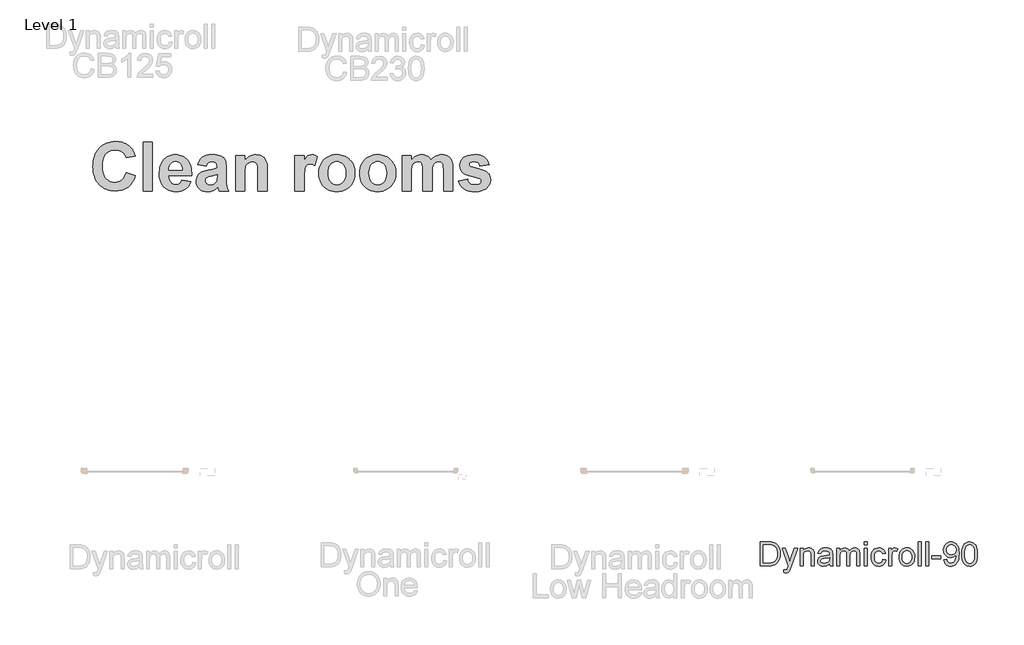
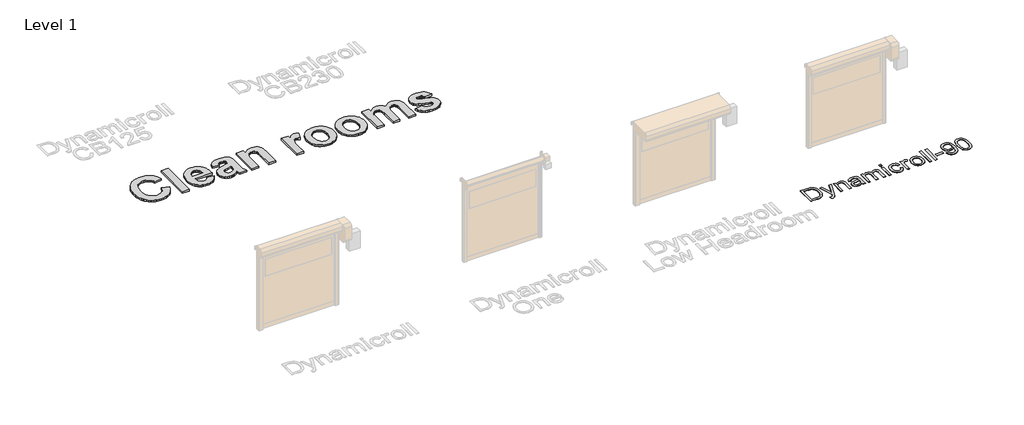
# One storey, part 15 of 18: 2 proxies.
"""IFC4 building model written with IfcOpenShell, lengths in millimetres."""

from ifc_helpers import new_model, si_unit, origin, origin_with_axes, place, context, project, spatial, polyline, outline, extrude, element, save

model = new_model("IFC4")

# Units and contexts
model_context = context("Model", 3, world=origin())
ifc_project = project(units=[si_unit("LENGTHUNIT", "METRE", prefix="MILLI")], contexts=[model_context])

# Site, building, storey
site = spatial("IfcSite", under=ifc_project)
building = spatial("IfcBuilding", under=site)
storey = spatial("IfcBuildingStorey", under=building, Name="Level 1", Elevation=0.0)

# Proxies
placement = place(None, origin())
element("IfcBuildingElementProxy", 1, Name="1000", ObjectType="1000", at=placement, inside=storey, context=model_context, shape_type="SweptSolid", body=[
    extrude(outline(polyline([(1304.7408851, 50927.9098645), (1499.0760089, 50863.1314899), (1472.2378981, 50786.2941528), (1437.7769415, 50720.0054425), (1395.6931391, 50664.2653592), (1371.7926706, 50640.3510527), (1345.9864908, 50619.0739028), (1288.8625921, 50584.1464027), (1224.5270384, 50559.1981884), (1152.9798297, 50544.2292598), (1074.2209661, 50539.2396169), (1024.4312889, 50541.3706926), (976.9110689, 50547.7639196), (931.6603061, 50558.419298), (888.6790006, 50573.3368278), (847.9671522, 50592.5165089), (809.5247611, 50615.9583413), (773.3518272, 50643.6623252), (739.4483505, 50675.6284603), (708.7276491, 50711.2913594), (682.1030413, 50750.085635), (659.574527, 50792.0112872), (641.1421062, 50837.0683158), (626.8057789, 50885.2567209), (616.5655451, 50936.5765025), (610.4214049, 50991.0276607), (608.3733581, 51048.6101953), (610.4391968, 51109.4269042), (616.6367128, 51166.7484908), (626.9659061, 51220.5749552), (641.4267768, 51270.9062972), (660.0193248, 51317.7425171), (682.7435501, 51361.0836146), (709.5994528, 51400.9295899), (740.5870328, 51437.2804429), (774.9432148, 51469.7210291), (811.9049235, 51497.8362038), (851.4721589, 51521.6259669), (893.6449209, 51541.0903186), (938.4232095, 51556.2292588), (985.8070249, 51567.0427876), (1035.7963669, 51573.5309048), (1088.3912355, 51575.6936105), (1134.349721, 51573.9104656), (1178.0941019, 51568.5610307), (1219.6243782, 51559.6453059), (1258.9405499, 51547.1632913), (1296.042617, 51531.1149867), (1330.9305795, 51511.5003922), (1363.6044374, 51488.3195077), (1394.0641907, 51461.5723334), (1426.9120139, 51424.2330408), (1455.363258, 51379.5239429), (1479.417923, 51327.4450397), (1499.0760089, 51267.9963312), (1304.7408851, 51235.6071439), (1292.4921421, 51271.1988753), (1274.9769932, 51302.8210336), (1252.1954384, 51330.4736185), (1224.1474776, 51354.1566302), (1191.8136429, 51373.1425772), (1156.1744664, 51386.7039678), (1117.2299479, 51394.8408023), (1074.9800877, 51397.5530804), (1017.2314952, 51392.6266977), (965.1921295, 51377.8475494), (918.8619908, 51353.2156358), (878.2410789, 51318.7309566), (860.5381265, 51297.5012519), (845.1955677, 51273.2231996), (832.2134026, 51245.8967996), (821.5916312, 51215.5220522), (807.4292692, 51145.6275144), (802.7084819, 51063.5395864), (807.2869339, 50976.6517958), (821.02229, 50903.2384133), (831.323807, 50871.584625), (843.91455, 50843.2994387), (858.7945191, 50818.3828545), (875.9637141, 50796.8348722), (915.3510535, 50762.07343), (960.2578393, 50737.2438284), (1010.6840716, 50722.3460674), (1066.6297503, 50717.3801471), (1108.2786393, 50720.5510612), (1146.9384872, 50730.0638034), (1182.6092938, 50745.9183739), (1215.2910592, 50768.1147725), (1244.2721069, 50797.1274503), (1268.8407605, 50833.4308582), (1288.9970199, 50877.0249963), (1304.7408851, 50927.9098645)])), origin_with_axes(), (0.0, 0.0, 1.0), 50.0),
    extrude(outline(polyline([(1661.0219454, 50539.2396169), (1661.0219454, 51559.4990169), (1855.3570692, 51559.4990169), (1855.3570692, 50539.2396169), (1661.0219454, 50539.2396169)])), origin_with_axes(), (0.0, 0.0, 1.0), 50.0),
    extrude(outline(polyline([(2470.7516279, 50765.963928), (2665.0867517, 50733.5747407), (2644.084388, 50685.1570176), (2617.7681734, 50642.8913423), (2586.1381076, 50606.7777148), (2549.1941909, 50576.816135), (2507.1103884, 50553.2912736), (2460.0606657, 50536.4878012), (2408.0450226, 50526.4057178), (2351.0634592, 50523.0450233), (2305.5280258, 50525.0258562), (2263.0528013, 50530.9683548), (2223.6377857, 50540.8725191), (2187.2829789, 50554.7383491), (2153.9883809, 50572.5658449), (2123.7539919, 50594.3550065), (2096.5798117, 50620.1058337), (2072.4658403, 50649.8183267), (2041.2469654, 50703.8899241), (2018.9477691, 50764.6354653), (2005.5682513, 50832.0549504), (2001.108412, 50906.1483793), (2007.0232343, 50993.5106208), (2014.4167622, 51033.4435788), (2024.7677012, 51070.8777616), (2038.0760513, 51105.8131692), (2054.3418126, 51138.2498016), (2073.5649851, 51168.1876588), (2095.7455687, 51195.6267408), (2120.187702, 51220.1795793), (2146.1955235, 51241.4587061), (2173.7690333, 51259.464121), (2202.9082313, 51274.1958241), (2233.6131176, 51285.6538154), (2265.8836922, 51293.8380949), (2299.719955, 51298.7486626), (2335.1219061, 51300.3855185), (2374.663442, 51298.7051713), (2412.0620409, 51293.6641295), (2447.3177029, 51285.2623933), (2480.430428, 51273.4999626), (2511.4002161, 51258.3768375), (2540.2270672, 51239.8930178), (2566.9109814, 51218.0485037), (2591.4519587, 51192.843295), (2613.391363, 51164.1666867), (2632.2705585, 51131.9079734), (2648.0895451, 51096.0671552), (2660.8483229, 51056.644232), (2670.5468918, 51013.6392039), (2677.1852518, 50967.0520709), (2680.763403, 50916.8828329), (2681.2813453, 50863.1314899), (2195.4435358, 50863.1314899), (2199.0651784, 50819.6401496), (2207.9057817, 50781.2728798), (2221.9653459, 50748.0296808), (2241.243871, 50719.9105523), (2264.4761543, 50697.5480959), (2290.3969931, 50681.5749127), (2319.0063876, 50671.9910028), (2350.3043376, 50668.7963661), (2391.1071224, 50674.5530381), (2408.8990344, 50681.7488781), (2424.9512927, 50691.823054), (2439.2006373, 50705.0918666), (2451.5838081, 50721.8716164), (2470.7516279, 50765.963928)]), holes=[polyline([(2486.9462215, 50976.4936455), (2483.4827293, 51017.5257482), (2475.1165769, 51053.3230751), (2461.8477644, 51083.8856261), (2443.6762916, 51109.2134013), (2421.9464365, 51129.0849901), (2398.0024767, 51143.278982), (2371.8444124, 51151.7953772), (2343.4722434, 51154.6341756), (2313.3287908, 51151.6451344), (2285.9055238, 51142.6780108), (2261.2024425, 51127.7328047), (2239.2195468, 51106.8095163), (2221.3169296, 51080.6356369), (2208.6016432, 51050.1916986), (2201.0736875, 51015.4777015), (2198.7330627, 50976.4936455), (2486.9462215, 50976.4936455)])]), origin_with_axes(), (0.0, 0.0, 1.0), 50.0),
    extrude(outline(polyline([(2988.9786247, 51057.4666137), (2810.8380945, 51089.855801), (2827.5783068, 51140.0210853), (2849.4584048, 51183.2277551), (2876.4783884, 51219.4758104), (2908.6382577, 51248.7652512), (2947.5669611, 51271.3491182), (2994.893447, 51287.4804517), (3050.6177153, 51297.1592518), (3114.739766, 51300.3855185), (3172.8916418, 51298.4323619), (3223.1043712, 51292.5728923), (3265.377954, 51282.8071095), (3299.7123903, 51269.1350136), (3327.8315188, 51252.4659689), (3351.4591779, 51233.7093399), (3370.5953676, 51212.8651266), (3385.2400881, 51189.933329), (3396.0892006, 51160.9364662), (3403.8385667, 51121.8970576), (3408.4881864, 51072.8151031), (3410.0380596, 51013.6906028), (3410.0380596, 50783.9298054), (3412.6000949, 50698.6551482), (3420.2862009, 50639.1906246), (3434.9941814, 50590.9231443), (3458.6218405, 50539.2396169), (3264.2867167, 50539.2396169), (3246.0677989, 50600.9815052), (3239.2357047, 50625.5264362), (3188.9439002, 50580.7698932), (3135.2360486, 50548.7286367), (3107.0694751, 50537.4920558), (3077.9856296, 50529.4659266), (3047.9845123, 50524.6502491), (3017.066123, 50523.0450233), (2964.5839365, 50526.9434289), (2917.9691271, 50538.6386457), (2877.221695, 50558.1306737), (2842.34164, 50585.4195129), (2814.3885694, 50618.6548045), (2794.4220904, 50655.9861895), (2782.442203, 50697.4136681), (2778.4489072, 50742.9372402), (2780.2280984, 50773.5867739), (2785.565672, 50802.528284), (2794.461628, 50829.7617706), (2806.9159664, 50855.2872336), (2822.5807564, 50878.5195169), (2841.1080674, 50898.8734642), (2862.4978994, 50916.3490755), (2886.7502523, 50930.9463508), (2949.4410425, 50955.554542), (3034.7789598, 50976.746686), (3145.2944095, 51001.7344379), (3215.7029358, 51025.0774264), (3215.7029358, 51045.573709), (3214.1926001, 51072.9337159), (3209.6615932, 51096.0552939), (3202.109915, 51114.9384432), (3191.5375656, 51129.5831636), (3176.7900474, 51140.5429814), (3156.7128632, 51148.3714226), (3131.3060129, 51153.0684874), (3100.5694966, 51154.6341756), (3060.2727928, 51149.2570645), (3043.8726037, 51142.5356755), (3029.9711899, 51133.1257309), (3017.9201348, 51120.3313694), (3007.0710223, 51103.4567293), (2988.9786247, 51057.4666137)]), holes=[polyline([(3215.7029358, 50879.3260836), (3106.1363881, 50852.3772676), (3044.1414593, 50836.9101655), (3007.9566641, 50821.6328437), (2992.5686371, 50808.6487017), (2981.5771893, 50793.9881663), (2974.9823206, 50777.6512373), (2972.784031, 50759.6379149), (2974.5474072, 50741.7906503), (2979.8375357, 50725.1927733), (2988.6544165, 50709.8442839), (3000.9980497, 50695.7451821), (3016.0618685, 50683.9550751), (3033.0393062, 50675.5335701), (3051.930363, 50670.4806671), (3072.7350387, 50668.7963661), (3096.8529638, 50670.7574302), (3120.3699177, 50676.6406224), (3143.2859003, 50686.4459428), (3165.6009117, 50700.1733913), (3192.8027682, 50726.6161263), (3208.6178011, 50758.3727123), (3213.9316521, 50791.0782002), (3215.7029358, 50844.1534505), (3215.7029358, 50879.3260836)])]), origin_with_axes(), (0.0, 0.0, 1.0), 50.0),
    extrude(outline(polyline([(4268.351523, 50539.2396169), (4074.0163992, 50539.2396169), (4074.0163992, 50922.0899324), (4070.9799129, 51022.2939807), (4067.184305, 51056.2646712), (4061.870454, 51079.4811395), (4045.8656407, 51111.1744653), (4022.1430915, 51134.8970146), (3991.8414885, 51149.6998854), (3956.0995142, 51154.6341756), (3931.9420515, 51152.8707995), (3909.0656065, 51147.580671), (3887.4701791, 51138.7637902), (3867.1557694, 51126.420157), (3849.0317418, 51111.1586503), (3834.0074605, 51093.5881488), (3822.0829258, 51073.7086525), (3813.2581374, 51051.5201614), (3806.8925867, 51023.2349751), (3802.3457647, 50985.0653933), (3798.7083072, 50879.0730431), (3798.7083072, 50539.2396169), (3604.3731834, 50539.2396169), (3604.3731834, 51284.1909248), (3798.7083072, 51284.1909248), (3798.7083072, 51176.9017419), (3822.5455155, 51205.843252), (3847.8772444, 51230.9258942), (3874.7034938, 51252.1496683), (3903.0242639, 51269.5145743), (3932.8395546, 51283.0206124), (3964.149366, 51292.6677825), (3996.9536979, 51298.4560845), (4031.2525504, 51300.3855185), (4090.3375132, 51294.5023263), (4117.8873004, 51287.148336), (4144.1086249, 51276.8527496), (4189.0233182, 51250.093714), (4206.8310452, 51234.2944962), (4221.5390258, 51216.882145), (4243.8382221, 51178.0087942), (4258.1033817, 51134.2644133), (4265.7894877, 51078.0577865), (4268.351523, 51001.7976981), (4268.351523, 50539.2396169)])), origin_with_axes(), (0.0, 0.0, 1.0), 50.0),
    extrude(outline(polyline([(5045.6920182, 50539.2396169), (4851.3568944, 50539.2396169), (4851.3568944, 51284.1909248), (5045.6920182, 51284.1909248), (5045.6920182, 51180.4443093), (5086.7478436, 51241.4587061), (5105.6151778, 51262.5006073), (5123.3754597, 51277.2323104), (5160.1928562, 51294.5972165), (5201.8180227, 51300.3855185), (5232.4201112, 51297.8234832), (5262.4844887, 51290.1373772), (5292.0111551, 51277.3272006), (5321.0001103, 51259.3929533), (5264.3190325, 51074.420329), (5217.5065353, 51098.1428783), (5195.4287494, 51104.0735156), (5174.2366053, 51106.0503947), (5136.8814977, 51100.5151332), (5120.5524763, 51093.5960563), (5105.7891431, 51083.9093487), (5092.5519606, 51070.6168136), (5080.8013912, 51052.8802542), (5061.7600916, 51004.0750628), (5054.7303095, 50967.3209264), (5049.7090366, 50914.7517572), (5045.6920182, 50762.1683202), (5045.6920182, 50539.2396169)])), origin_with_axes(), (0.0, 0.0, 1.0), 50.0),
    extrude(outline(polyline([(5353.3892976, 50922.342973), (5356.3862463, 50970.9188464), (5365.3770925, 51018.7197832), (5380.3618361, 51065.7457834), (5401.3404772, 51111.996847), (5427.8069347, 51155.1481642), (5459.2551276, 51192.8749251), (5495.6850558, 51225.1771297), (5537.0967193, 51252.0547781), (5582.2802682, 51273.199477), (5630.0258524, 51288.3028334), (5680.3334719, 51297.3648472), (5733.2031268, 51300.3855185), (5774.1344087, 51298.6735412), (5813.1718405, 51293.5376093), (5850.315422, 51284.9777227), (5885.5651534, 51272.9938816), (5918.9210346, 51257.5860858), (5950.3830656, 51238.7543354), (5979.9512464, 51216.4986304), (6007.625577, 51190.8189708), (6032.6825197, 51162.5219233), (6054.3985367, 51132.4140545), (6072.773628, 51100.4953644), (6087.8077936, 51066.7658531), (6099.5010335, 51031.2255205), (6107.8533478, 50993.8743666), (6112.8647363, 50954.7123915), (6114.5351992, 50913.7395951), (6112.8469444, 50872.4485212), (6107.7821801, 50832.9643148), (6099.3409063, 50795.2869758), (6087.523123, 50759.4165044), (6072.3288302, 50725.3529005), (6053.7580279, 50693.0961641), (6031.810716, 50662.6462952), (6006.4868946, 50634.0032938), (5978.6049917, 50607.9974492), (5948.9834352, 50585.4590505), (5917.622225, 50566.3880977), (5884.5213612, 50550.7845909), (5849.6808438, 50538.6485301), (5813.1006728, 50529.9799152), (5774.7808482, 50524.7787463), (5734.72137, 50523.0450233), (5684.5798083, 50525.9312668), (5635.624374, 50534.5899973), (5587.8550673, 50549.0212148), (5541.271888, 50569.2249192), (5498.0335881, 50595.0113303), (5460.2989197, 50626.1906676), (5428.0678828, 50662.7629311), (5401.3404772, 50704.7281208), (5380.3618361, 50751.8252887), (5365.3770925, 50803.7934866), (5356.3862463, 50860.6327147), (5353.3892976, 50922.342973)]), holes=[polyline([(5547.7244214, 50911.7152709), (5551.0851159, 50856.3231183), (5561.1671993, 50807.810505), (5577.9706717, 50766.177431), (5601.4955331, 50731.4238963), (5629.9546848, 50704.0243518), (5661.5610279, 50684.4532487), (5696.3145626, 50672.7105868), (5734.2152889, 50668.7963661), (5772.1002001, 50672.7105868), (5806.8062897, 50684.4532487), (5838.3335577, 50704.0243518), (5866.6820041, 50731.4238963), (5890.0961603, 50766.2723212), (5906.8205576, 50808.1900658), (5916.8551959, 50857.1771301), (5920.2000754, 50913.233514), (5916.8551959, 50967.9614353), (5906.8205576, 51015.9995976), (5890.0961603, 51057.348001), (5866.6820041, 51092.0066455), (5838.3335577, 51119.4061899), (5806.8062897, 51138.9772931), (5772.1002001, 51150.719955), (5734.2152889, 51154.6341756), (5696.3145626, 51150.719955), (5661.5610279, 51138.9772931), (5629.9546848, 51119.4061899), (5601.4955331, 51092.0066455), (5577.9706717, 51057.2531108), (5561.1671993, 51015.6200368), (5551.0851159, 50967.1074235), (5547.7244214, 50911.7152709)])]), origin_with_axes(), (0.0, 0.0, 1.0), 50.0),
    extrude(outline(polyline([(6211.7027611, 50922.342973), (6214.6997098, 50970.9188464), (6223.690556, 51018.7197832), (6238.6752996, 51065.7457834), (6259.6539407, 51111.996847), (6286.1203982, 51155.1481642), (6317.568591, 51192.8749251), (6353.9985192, 51225.1771297), (6395.4101828, 51252.0547781), (6440.5937317, 51273.199477), (6488.3393159, 51288.3028334), (6538.6469354, 51297.3648472), (6591.5165903, 51300.3855185), (6632.4478722, 51298.6735412), (6671.4853039, 51293.5376093), (6708.6288855, 51284.9777227), (6743.8786168, 51272.9938816), (6777.234498, 51257.5860858), (6808.696529, 51238.7543354), (6838.2647098, 51216.4986304), (6865.9390405, 51190.8189708), (6890.9959832, 51162.5219233), (6912.7120002, 51132.4140545), (6931.0870915, 51100.4953644), (6946.1212571, 51066.7658531), (6957.814497, 51031.2255205), (6966.1668112, 50993.8743666), (6971.1781998, 50954.7123915), (6972.8486626, 50913.7395951), (6971.1604079, 50872.4485212), (6966.0956436, 50832.9643148), (6957.6543698, 50795.2869758), (6945.8365865, 50759.4165044), (6930.6422937, 50725.3529005), (6912.0714913, 50693.0961641), (6890.1241795, 50662.6462952), (6864.8003581, 50634.0032938), (6836.9184552, 50607.9974492), (6807.2968986, 50585.4590505), (6775.9356885, 50566.3880977), (6742.8348247, 50550.7845909), (6707.9943073, 50538.6485301), (6671.4141363, 50529.9799152), (6633.0943116, 50524.7787463), (6593.0348334, 50523.0450233), (6542.8932717, 50525.9312668), (6493.9378375, 50534.5899973), (6446.1685307, 50549.0212148), (6399.5853514, 50569.2249192), (6356.3470516, 50595.0113303), (6318.6123832, 50626.1906676), (6286.3813462, 50662.7629311), (6259.6539407, 50704.7281208), (6238.6752996, 50751.8252887), (6223.690556, 50803.7934866), (6214.6997098, 50860.6327147), (6211.7027611, 50922.342973)]), holes=[polyline([(6406.0378849, 50911.7152709), (6409.3985793, 50856.3231183), (6419.4806628, 50807.810505), (6436.2841352, 50766.177431), (6459.8089966, 50731.4238963), (6488.2681482, 50704.0243518), (6519.8744914, 50684.4532487), (6554.6280261, 50672.7105868), (6592.5287524, 50668.7963661), (6630.4136636, 50672.7105868), (6665.1197532, 50684.4532487), (6696.6470212, 50704.0243518), (6724.9954676, 50731.4238963), (6748.4096238, 50766.2723212), (6765.134021, 50808.1900658), (6775.1686594, 50857.1771301), (6778.5135388, 50913.233514), (6775.1686594, 50967.9614353), (6765.134021, 51015.9995976), (6748.4096238, 51057.348001), (6724.9954676, 51092.0066455), (6696.6470212, 51119.4061899), (6665.1197532, 51138.9772931), (6630.4136636, 51150.719955), (6592.5287524, 51154.6341756), (6554.6280261, 51150.719955), (6519.8744914, 51138.9772931), (6488.2681482, 51119.4061899), (6459.8089966, 51092.0066455), (6436.2841352, 51057.2531108), (6419.4806628, 51015.6200368), (6409.3985793, 50967.1074235), (6406.0378849, 50911.7152709)])]), origin_with_axes(), (0.0, 0.0, 1.0), 50.0),
    extrude(outline(polyline([(7102.4054118, 51284.1909248), (7296.7405356, 51284.1909248), (7296.7405356, 51184.4929577), (7320.1191079, 51211.6552766), (7344.58101, 51235.195953), (7370.1262418, 51255.1149869), (7396.7548034, 51271.4123783), (7424.4666948, 51284.0881271), (7453.2619158, 51293.1422334), (7483.1404667, 51298.5746972), (7514.1023473, 51300.3855185), (7546.5152571, 51298.6063273), (7576.6982473, 51293.2687537), (7604.6513179, 51284.3727977), (7630.3744689, 51271.9184593), (7653.8835152, 51255.8582935), (7675.194272, 51236.144855), (7694.3067392, 51212.778144), (7711.2209168, 51185.7581603), (7735.615605, 51212.778144), (7760.9750102, 51236.144855), (7787.2991324, 51255.8582935), (7814.5879716, 51271.9184593), (7842.8257128, 51284.3727977), (7871.9965409, 51293.2687537), (7902.100456, 51298.6063273), (7933.137458, 51300.3855185), (7971.5838028, 51298.3058417), (8006.9620314, 51292.0668112), (8039.2721435, 51281.6684271), (8068.5141392, 51267.1106894), (8094.4824232, 51248.5201182), (8116.9713999, 51226.023234), (8135.9810694, 51199.6200366), (8151.5114317, 51169.3105261), (8160.1464396, 51141.8398141), (8166.3143025, 51106.9992967), (8171.2485927, 51015.2088459), (8171.2485927, 50539.2396169), (7976.9134689, 50539.2396169), (7976.9134689, 50968.1433081), (7971.9791787, 51059.9337589), (7965.8113158, 51090.9786684), (7957.1763079, 51112.1233673), (7942.2152868, 51130.721846), (7923.6484382, 51144.0064736), (7901.4757622, 51151.9772501), (7875.6972586, 51154.6341756), (7855.9996352, 51153.0447648), (7836.887168, 51148.2765324), (7800.4177022, 51129.2036028), (7784.0016981, 51115.0096108), (7770.0528391, 51097.8582077), (7758.5711252, 51077.7493934), (7749.5565565, 51054.683168), (7742.7481849, 51026.5798546), (7737.8850622, 50991.3597764), (7733.9945642, 50899.5693257), (7733.9945642, 50539.2396169), (7539.6594404, 50539.2396169), (7539.6594404, 50950.4304713), (7537.1290351, 51040.5445286), (7529.5378193, 51091.753605), (7516.6643826, 51119.4615426), (7498.2873144, 51139.0721833), (7473.3311925, 51150.7436776), (7440.7205948, 51154.6341756), (7419.3861155, 51153.0922099), (7399.1586884, 51148.4663128), (7380.0383137, 51140.7564843), (7362.0249913, 51129.9627244), (7345.7987675, 51116.2510909), (7332.039689, 51099.7876417), (7320.7477555, 51080.5723768), (7311.9229672, 51058.6052961), (7305.2806534, 51031.4271621), (7300.5361435, 50996.5787372), (7296.7405356, 50903.8710146), (7296.7405356, 50539.2396169), (7102.4054118, 50539.2396169), (7102.4054118, 51284.1909248)])), origin_with_axes(), (0.0, 0.0, 1.0), 50.0),
    extrude(outline(polyline([(8284.6107483, 50749.7693344), (8478.9458721, 50782.1585217), (8486.6082555, 50756.0004573), (8497.4494605, 50733.1951799), (8511.4694871, 50713.7426895), (8528.6683354, 50697.6429861), (8549.3148608, 50685.0225899), (8573.6779189, 50676.0080211), (8601.7575098, 50670.5992799), (8633.5536333, 50668.7963661), (8668.3308906, 50670.5202047), (8698.5217883, 50675.6917205), (8724.1263265, 50684.3109134), (8745.1445052, 50696.3777834), (8756.2150282, 50706.8157051), (8764.1225446, 50718.8983902), (8768.8670545, 50732.6258388), (8770.4485578, 50747.9980507), (8767.0957708, 50768.1147725), (8757.0374099, 50784.4358864), (8734.0739822, 50797.7837742), (8693.5242379, 50809.9929795), (8589.1608361, 50835.3919223), (8505.8314279, 50859.7154428), (8443.5360135, 50882.9635411), (8402.2745928, 50905.1362172), (8364.9669302, 50938.1738209), (8338.3185999, 50977.0629867), (8322.3296016, 51021.8037146), (8316.9999356, 51072.3960048), (8321.5704801, 51118.6866059), (8335.2821136, 51161.1499692), (8358.134836, 51199.7860945), (8390.1286475, 51234.5949818), (8431.737999, 51263.3783416), (8483.4373414, 51283.9378843), (8545.2266748, 51296.2736099), (8617.1059991, 51300.3855185), (8685.5376463, 51297.0643616), (8744.575164, 51287.1008909), (8794.2185522, 51270.4951064), (8834.4678108, 51247.2470081), (8867.2523739, 51217.4831162), (8894.5016755, 51181.3299511), (8916.2157157, 51138.7875127), (8932.3944943, 51089.855801), (8738.0593705, 51057.4666137), (8723.7625808, 51099.0285201), (8713.293029, 51115.6817497), (8700.6093727, 51129.5831636), (8685.363681, 51140.5429814), (8667.2080233, 51148.3714226), (8646.1423995, 51153.0684874), (8622.1668097, 51154.6341756), (8566.8141946, 51149.3203246), (8546.0174264, 51142.6780108), (8529.8070178, 51133.3787715), (8515.953049, 51115.9189752), (8511.3350594, 51093.9044495), (8515.953049, 51074.8631499), (8529.8070178, 51058.7318164), (8549.8525719, 51048.1199293), (8585.1912628, 51035.5153481), (8701.748055, 51004.3281033), (8769.7606038, 50985.7138096), (8826.6551846, 50965.0435617), (8872.4317972, 50942.3173595), (8907.0904417, 50917.535203), (8932.3312341, 50888.7676582), (8950.3603716, 50854.8444127), (8961.1778541, 50815.7654665), (8964.7836816, 50771.5308196), (8959.5568132, 50722.3381599), (8943.8762081, 50676.7355126), (8917.7418663, 50634.7228778), (8881.1537878, 50596.3002555), (8858.9909961, 50579.1310605), (8834.317568, 50564.2510914), (8777.4388023, 50541.3588313), (8710.5174907, 50527.6234753), (8633.5536333, 50523.0450233), (8563.0423093, 50526.8564462), (8500.2961664, 50538.290715), (8445.3152047, 50557.3478296), (8398.0994241, 50584.02779), (8358.5064893, 50617.255174), (8326.3940651, 50655.9545595), (8301.7621514, 50700.1259462), (8284.6107483, 50749.7693344)])), origin_with_axes(), (0.0, 0.0, 1.0), 50.0),
])
element("IfcBuildingElementProxy", 2, Name="500mm", ObjectType="500mm", at=placement, inside=storey, context=model_context, shape_type="SweptSolid", body=[
    extrude(outline(polyline([(14635.3862268, 42654.3224634), (14635.3862268, 43156.6040142), (14808.6586466, 43156.6040142), (14860.4380374, 43154.795261), (14898.299226, 43149.3690016), (14938.3370499, 43135.4201426), (14972.1208797, 43113.4391934), (14990.7372415, 43095.4742893), (15006.8550715, 43075.1794659), (15020.4743695, 43052.5547232), (15031.5951356, 43027.6000612), (15046.4023859, 42971.6206842), (15051.338136, 42908.1610401), (15047.9965413, 42854.2509994), (15037.9717569, 42806.8095504), (15022.7046541, 42766.419173), (15003.636104, 42733.662347), (14981.6858116, 42707.8033085), (14957.7734819, 42688.1062933), (14930.320288, 42673.4983124), (14897.7474031, 42662.9063766), (14859.9935133, 42656.4684417), (14816.9973051, 42654.3224634), (14635.3862268, 42654.3224634)]), holes=[polyline([(14698.1714207, 42717.1076573), (14809.2717832, 42717.1076573), (14855.2263758, 42719.3762629), (14890.0831948, 42726.1820798), (14916.3867575, 42737.1265692), (14936.6815809, 42751.8111921), (14958.4939175, 42778.9884745), (14974.8799947, 42814.1671903), (14985.1347053, 42857.5006237), (14988.5529422, 42909.1420587), (14986.8783127, 42945.5930331), (14981.8544242, 42977.5681098), (14973.4812767, 43005.067289), (14961.7588702, 43028.0905705), (14947.6375665, 43047.1591206), (14932.0677275, 43062.7941054), (14915.0493531, 43074.9955249), (14896.5824434, 43083.7633791), (14860.4686942, 43091.30496), (14807.5550006, 43093.8188203), (14698.1714207, 43093.8188203), (14698.1714207, 42717.1076573)])]), origin_with_axes(), (0.0, 0.0, 1.0), 5.0),
    extrude(outline(polyline([(15129.8196283, 42513.0557773), (15121.9714791, 42573.5110518), (15153.8545854, 42567.9928219), (15170.623873, 42569.7249329), (15183.653027, 42574.9212661), (15193.8004387, 42583.2139394), (15201.9244994, 42594.2350709), (15219.0923258, 42640.4655749), (15223.9974191, 42655.6713641), (15090.5788822, 43023.1854772), (15156.7976413, 43023.1854772), (15227.5536117, 42818.3978333), (15252.2017054, 42736.4827757), (15276.8497991, 42808.8329014), (15349.5678068, 43023.1854772), (15415.2960566, 43023.1854772), (15286.9052403, 42645.4932955), (15253.5506061, 42563.5782379), (15236.4747501, 42537.4279594), (15217.1302885, 42519.3097712), (15194.65883, 42508.7331638), (15168.2019832, 42505.207628), (15150.0224812, 42507.1696653), (15129.8196283, 42513.0557773)])), origin_with_axes(), (0.0, 0.0, 1.0), 5.0),
    extrude(outline(polyline([(15467.2900453, 42654.3224634), (15467.2900453, 43023.1854772), (15530.0752391, 43023.1854772), (15530.0752391, 42971.6819979), (15551.8875757, 42997.6483354), (15578.0838395, 43016.1957193), (15608.6640303, 43027.3241497), (15643.6281483, 43031.0336265), (15674.5762211, 43028.0445853), (15702.9184632, 43019.0774616), (15726.5548814, 43005.25123), (15743.3854826, 42987.6848647), (15754.8051529, 42966.4243511), (15762.2087781, 42941.5156743), (15765.519716, 42880.8151451), (15765.519716, 42654.3224634), (15702.7345222, 42654.3224634), (15702.7345222, 42872.3538592), (15700.925769, 42904.8194453), (15695.4995096, 42927.9040405), (15685.4900536, 42944.4434019), (15669.9317109, 42957.2732864), (15649.9894411, 42965.5046461), (15626.8282038, 42968.2484326), (15607.7634859, 42966.7079268), (15590.0553327, 42962.0864092), (15573.7037445, 42954.3838799), (15558.7087211, 42943.6003389), (15546.1815727, 42928.5095129), (15537.2336096, 42907.8851286), (15531.8648317, 42881.7271859), (15530.0752391, 42850.0356848), (15530.0752391, 42654.3224634), (15467.2900453, 42654.3224634)])), origin_with_axes(), (0.0, 0.0, 1.0), 5.0),
    extrude(outline(polyline([(16087.2938345, 42701.4113588), (16057.2961234, 42675.690276), (16026.4093643, 42658.8596747), (15993.9284498, 42649.5706543), (15959.1482728, 42646.4743142), (15931.1930733, 42648.3367168), (15906.6791032, 42653.9239246), (15885.6063627, 42663.2359376), (15867.9748517, 42676.2727558), (15854.0528174, 42692.2066447), (15844.1085072, 42710.2098698), (15838.1419211, 42730.2824312), (15836.1530591, 42752.4243288), (15839.1574287, 42778.4519799), (15848.1705376, 42802.0883981), (15862.0734113, 42822.3219079), (15879.7470755, 42838.1408337), (15900.5170798, 42850.0969985), (15923.7089739, 42858.7422254), (15978.0328819, 42868.1845299), (16042.2282901, 42878.1173438), (16086.9259525, 42889.7669403), (16087.2938345, 42903.7464561), (16082.971221, 42931.7668014), (16070.0033807, 42950.0995875), (16056.9282414, 42958.0397073), (16041.0020167, 42963.7112214), (16000.5963109, 42968.2484326), (15963.1949748, 42965.2287346), (15937.0753531, 42956.1696405), (15919.2637332, 42939.4156813), (15906.7864022, 42913.311388), (15844.0012083, 42921.1595372), (15854.8997124, 42955.4951901), (15871.1631623, 42982.4732031), (15894.3090712, 43003.1052517), (15925.8549522, 43018.4030113), (15964.4365765, 43027.8759727), (16008.6897148, 43031.0336265), (16051.1341, 43028.2438547), (16084.7799742, 43019.8745393), (16110.1485034, 43007.2899094), (16127.7608539, 42991.854194), (16139.4411073, 42972.7703155), (16147.013345, 42949.2411962), (16150.0790283, 42894.3041516), (16150.0790283, 42816.1905413), (16153.2673389, 42707.1135297), (16157.9884912, 42680.1508452), (16165.7753268, 42654.3224634), (16102.9901329, 42654.3224634), (16092.9346917, 42676.1501285), (16087.2938345, 42701.4113588)]), holes=[polyline([(16087.2938345, 42826.9817465), (16045.1100323, 42816.5277664), (15986.0036585, 42807.7292554), (15931.9863188, 42797.5511869), (15917.9301609, 42790.5920858), (15907.5221662, 42780.9964971), (15901.0842312, 42769.5001847), (15898.9382529, 42756.8389127), (15903.61342, 42738.1689015), (15917.638921, 42722.8711418), (15940.7081878, 42712.6624165), (15972.514652, 42709.259508), (16006.2371682, 42713.0149701), (16036.0356098, 42724.2813562), (16060.1931941, 42740.8820312), (16076.9931386, 42760.64036), (16084.442749, 42780.9964971), (16086.9259525, 42809.2007834), (16087.2938345, 42826.9817465)])]), origin_with_axes(), (0.0, 0.0, 1.0), 5.0),
    extrude(outline(polyline([(16236.4086698, 42654.3224634), (16236.4086698, 43023.1854772), (16299.1938637, 43023.1854772), (16299.1938637, 42962.484948), (16318.0784728, 42990.3673376), (16342.3586844, 43012.2103311), (16371.2067642, 43026.3278026), (16403.7949776, 43031.0336265), (16438.7131104, 43026.2358321), (16466.7027988, 43011.8424491), (16487.6107589, 42988.8038391), (16501.2837064, 42958.0703641), (16524.1690321, 42989.9917914), (16550.2733254, 43012.7928109), (16579.5965861, 43026.4734226), (16612.1388142, 43031.0336265), (16637.2735851, 43029.1367349), (16659.3350085, 43023.4460603), (16678.3230844, 43013.9616026), (16694.2378128, 43000.6833619), (16706.8186107, 42983.4580539), (16715.8048948, 42962.1323945), (16721.1966653, 42936.7063836), (16722.9939221, 42907.1800214), (16722.9939221, 42654.3224634), (16660.2087283, 42654.3224634), (16660.2087283, 42880.2020084), (16658.7525287, 42911.5179633), (16654.38393, 42932.6251928), (16646.1985556, 42947.0798895), (16633.292029, 42958.4382461), (16616.6913539, 42965.795886), (16597.4235344, 42968.2484326), (16579.631075, 42966.6772699), (16563.4097783, 42961.9637819), (16548.7596443, 42954.1079684), (16535.6806729, 42943.1098296), (16524.9239567, 42928.6474687), (16517.2405879, 42910.3989889), (16512.6305667, 42888.3643902), (16511.0938929, 42862.5436727), (16511.0938929, 42654.3224634), (16448.3086991, 42654.3224634), (16448.3086991, 42887.1917664), (16444.6758644, 42922.6923789), (16433.7773603, 42948.0149229), (16425.3505633, 42956.8670834), (16414.6015113, 42963.1900552), (16386.1366419, 42968.2484326), (16361.9484007, 42964.876181), (16339.6608832, 42954.7594261), (16321.2667834, 42938.1434227), (16308.7587956, 42915.2734253), (16301.5850967, 42883.5436032), (16299.1938637, 42840.3481256), (16299.1938637, 42654.3224634), (16236.4086698, 42654.3224634)])), origin_with_axes(), (0.0, 0.0, 1.0), 5.0),
    extrude(outline(polyline([(16817.1717129, 43093.8188203), (16817.1717129, 43156.6040142), (16879.9569067, 43156.6040142), (16879.9569067, 43093.8188203), (16817.1717129, 43093.8188203)])), origin_with_axes(), (0.0, 0.0, 1.0), 5.0),
    extrude(outline(polyline([(16817.1717129, 42654.3224634), (16817.1717129, 43023.1854772), (16879.9569067, 43023.1854772), (16879.9569067, 42654.3224634), (16817.1717129, 42654.3224634)])), origin_with_axes(), (0.0, 0.0, 1.0), 5.0),
    extrude(outline(polyline([(17209.5791744, 42787.7410003), (17272.3643683, 42779.8928511), (17265.5355587, 42750.2668542), (17254.8593167, 42724.0514299), (17240.3356421, 42701.2465783), (17221.9645349, 42681.8522994), (17200.5200803, 42666.3744309), (17176.7763632, 42655.3188105), (17150.7333836, 42648.6854383), (17122.3911416, 42646.4743142), (17087.1779368, 42649.559158), (17055.605231, 42658.8136894), (17027.6730241, 42674.2379085), (17003.3813161, 42695.8318152), (16983.7187899, 42723.1892065), (16969.6741283, 42755.9038793), (16961.2473314, 42793.9758337), (16958.438399, 42837.4050697), (16963.2361934, 42893.2771477), (16977.6295765, 42941.6996153), (16988.4820953, 42962.6497285), (17001.8484745, 42980.8024057), (17017.7287139, 42996.1576469), (17036.1228137, 43008.7154521), (17077.1263277, 43025.4540829), (17121.5327502, 43031.0336265), (17149.3883151, 43029.1175744), (17174.5843996, 43023.3694182), (17197.1210039, 43013.7891579), (17216.998128, 43000.3767935), (17233.8785466, 42983.4388933), (17247.4250347, 42963.2820257), (17257.6375921, 42939.9061906), (17264.516219, 42913.311388), (17201.7310252, 42905.4632388), (17190.3420117, 42932.855119), (17172.6070339, 42952.4908205), (17149.5071103, 42964.3090296), (17122.0232596, 42968.2484326), (17100.6899359, 42966.3093879), (17081.4489412, 42960.4922539), (17064.3002753, 42950.7970305), (17049.2439382, 42937.2237177), (17036.9850371, 42919.458083), (17028.2286792, 42897.1858939), (17022.9748645, 42870.4071503), (17021.2235929, 42839.1218523), (17022.9365434, 42807.3652055), (17028.075395, 42780.2760615), (17036.6401477, 42757.8544203), (17048.6308015, 42740.100282), (17063.3882345, 42726.6074434), (17080.2533247, 42716.9697015), (17099.2260722, 42711.1870564), (17120.3064769, 42709.259508), (17152.8180482, 42714.0726308), (17179.4741645, 42728.5119991), (17190.2538734, 42739.4334958), (17198.8646113, 42752.9454949), (17209.5791744, 42787.7410003)])), origin_with_axes(), (0.0, 0.0, 1.0), 5.0),
    extrude(outline(polyline([(17327.3014129, 42654.3224634), (17327.3014129, 43023.1854772), (17382.2384575, 43023.1854772), (17382.2384575, 42968.6163146), (17402.5332809, 43000.2541662), (17421.233949, 43018.8935206), (17439.9959307, 43027.9986), (17460.4746951, 43031.0336265), (17491.7446647, 43026.1898469), (17523.5051436, 43011.6585081), (17502.5358699, 42955.3725628), (17480.4629502, 42965.0294652), (17458.3900305, 42968.2484326), (17439.6433771, 42965.1520925), (17422.8894179, 42955.8630721), (17409.3544262, 42941.0864786), (17400.2646752, 42921.5274192), (17392.6311238, 42886.4560024), (17390.0866067, 42848.1962749), (17390.0866067, 42654.3224634), (17327.3014129, 42654.3224634)])), origin_with_axes(), (0.0, 0.0, 1.0), 5.0),
    extrude(outline(polyline([(17547.0495913, 42838.7539703), (17550.4448356, 42886.5249802), (17560.6305683, 42927.6894427), (17577.6067895, 42962.2473576), (17601.3734993, 42990.198725), (17625.3011574, 43008.0639944), (17651.7120189, 43020.8249011), (17680.606084, 43028.4814451), (17711.9833525, 43031.0336265), (17746.6217416, 43027.92579), (17777.9415285, 43018.6022807), (17805.9427133, 43003.0630985), (17830.6252959, 42981.3082435), (17850.7706673, 42954.0734795), (17865.1602182, 42922.0945706), (17873.7939488, 42885.3715169), (17876.671859, 42843.9043183), (17871.5828247, 42780.4753309), (17865.2215319, 42754.4400156), (17856.3157219, 42732.1908191), (17844.9765259, 42712.9728169), (17831.3150747, 42696.0310846), (17815.3313684, 42681.3656222), (17797.025407, 42668.9764296), (17756.2978045, 42652.099843), (17711.9833525, 42646.4743142), (17676.8391256, 42649.5706543), (17645.2280988, 42658.8596747), (17617.1502719, 42674.3413753), (17592.6056451, 42696.0157562), (17572.6748715, 42723.5149353), (17558.4386048, 42756.4710307), (17549.8968447, 42794.8840424), (17547.0495913, 42838.7539703)]), holes=[polyline([(17609.8347852, 42838.8765977), (17611.6512025, 42808.4228662), (17617.1004546, 42782.0541578), (17626.1825413, 42759.7704724), (17638.8974628, 42741.5718099), (17654.363835, 42727.4351778), (17671.700274, 42717.3375835), (17690.9067799, 42711.2790269), (17711.9833525, 42709.259508), (17732.9526262, 42711.2905232), (17752.08249, 42717.3835687), (17769.3729437, 42727.5386447), (17784.8239875, 42741.7557509), (17797.538909, 42760.1345223), (17806.6209958, 42782.7745934), (17812.0702478, 42809.6759643), (17813.8866652, 42840.838635), (17812.0587515, 42870.3266761), (17806.5750105, 42896.0056058), (17797.4354422, 42917.875424), (17784.6400465, 42935.9361307), (17769.1315212, 42950.0727628), (17751.8525637, 42960.1703571), (17732.8031742, 42966.2289138), (17711.9833525, 42968.2484326), (17690.9067799, 42966.236578), (17671.700274, 42960.201014), (17654.363835, 42950.1417407), (17638.8974628, 42936.058758), (17626.1825413, 42917.9137451), (17617.1004546, 42895.6683807), (17611.6512025, 42869.3226649), (17609.8347852, 42838.8765977)])]), origin_with_axes(), (0.0, 0.0, 1.0), 5.0),
    extrude(outline(polyline([(17947.3052021, 42654.3224634), (17947.3052021, 43156.6040142), (18010.0903959, 43156.6040142), (18010.0903959, 42654.3224634), (17947.3052021, 42654.3224634)])), origin_with_axes(), (0.0, 0.0, 1.0), 5.0),
    extrude(outline(polyline([(18104.2681867, 42654.3224634), (18104.2681867, 43156.6040142), (18167.0533805, 43156.6040142), (18167.0533805, 42654.3224634), (18104.2681867, 42654.3224634)])), origin_with_axes(), (0.0, 0.0, 1.0), 5.0),
    extrude(outline(polyline([(18229.8385744, 42803.4372988), (18229.8385744, 42866.2224926), (18426.0423051, 42866.2224926), (18426.0423051, 42803.4372988), (18229.8385744, 42803.4372988)])), origin_with_axes(), (0.0, 0.0, 1.0), 5.0),
    extrude(outline(polyline([(18488.827499, 42779.8928511), (18551.6126928, 42787.7410003), (18562.3425843, 42752.102432), (18579.8169791, 42727.8375488), (18603.6066815, 42713.9040182), (18633.2824957, 42709.259508), (18659.9079551, 42712.2485492), (18684.1115247, 42721.2156729), (18704.2224072, 42735.1798603), (18718.569805, 42753.1600928), (18729.4376522, 42776.796511), (18739.109883, 42807.7292554), (18745.9156999, 42843.2298679), (18748.1843056, 42880.5698904), (18747.8164236, 42892.8326236), (18726.0654006, 42866.2838063), (18697.6005312, 42845.2532189), (18664.4758233, 42831.5496146), (18628.7452845, 42826.9817465), (18598.9200181, 42829.7715183), (18571.493649, 42838.1408337), (18546.466177, 42852.0896926), (18523.8376022, 42871.6180952), (18505.0871167, 42895.7067017), (18491.6939129, 42923.3361724), (18483.6579905, 42954.5065073), (18480.9793497, 42989.2177064), (18483.7882821, 43025.0862009), (18492.215079, 43057.2758755), (18506.2597406, 43085.7867301), (18525.9222668, 43110.6187648), (18549.815436, 43130.7373114), (18576.5520264, 43145.1077018), (18606.1320381, 43153.7299361), (18638.555471, 43156.6040142), (18662.4946254, 43154.9638736), (18685.3837833, 43150.0434519), (18707.2229447, 43141.8427491), (18728.0121095, 43130.3617652), (18747.057667, 43115.8457548), (18763.6660062, 43098.5399726), (18777.8371272, 43078.4444186), (18789.57103, 43055.5590928), (18798.771912, 43028.5657514), (18805.3439706, 42996.1461506), (18810.6016174, 42915.0281707), (18805.359299, 42829.0204259), (18798.806401, 42793.3397044), (18789.6323437, 42762.5410837), (18777.8716162, 42735.8734711), (18763.5587073, 42712.5857744), (18746.6936171, 42692.6779935), (18727.2763455, 42676.1501285), (18705.6977672, 42663.1669597), (18682.3487569, 42653.8932677), (18657.2293144, 42648.3290526), (18630.3394398, 42646.4743142), (18602.1428177, 42648.6624456), (18576.6593253, 42655.22684), (18553.8889627, 42666.1674972), (18533.8317297, 42681.4844174), (18516.9934642, 42700.7637332), (18503.8800039, 42723.5915774), (18494.4913489, 42749.9679501), (18488.827499, 42779.8928511)]), holes=[polyline([(18747.8164236, 42990.6892343), (18746.1226336, 43013.1913497), (18741.0412635, 43033.2409184), (18732.5723134, 43050.8379405), (18720.7157833, 43065.982416), (18706.0541529, 43078.1608429), (18689.1699022, 43086.8597192), (18670.0630311, 43092.079045), (18648.7335395, 43093.8188203), (18626.7219335, 43091.9449214), (18606.7949921, 43086.3232247), (18588.9527153, 43076.9537301), (18573.1951032, 43063.8364377), (18560.3192334, 43047.7377683), (18551.1221835, 43029.4241427), (18545.6039536, 43008.895561), (18543.7645436, 42986.1520231), (18545.5043189, 42965.7537328), (18550.7236447, 42947.355801), (18559.422521, 42930.9582275), (18571.6009479, 42916.5610123), (18586.7530876, 42904.8386058), (18604.3731023, 42896.4654583), (18624.4609921, 42891.4415698), (18647.0167569, 42889.7669403), (18668.0511764, 42891.4415698), (18687.1312228, 42896.4654583), (18704.2568961, 42904.8386058), (18719.4281963, 42916.5610123), (18731.8480457, 42931.2418032), (18740.7193668, 42948.4901038), (18746.0421594, 42968.3059142), (18747.8164236, 42990.6892343)])]), origin_with_axes(), (0.0, 0.0, 1.0), 5.0),
    extrude(outline(polyline([(18865.538662, 42901.4165368), (18870.1525154, 42981.8140812), (18883.9940755, 43045.9328473), (18894.3407566, 43072.1329431), (18906.9253865, 43094.7538537), (18921.7479652, 43113.7955791), (18938.8084927, 43129.2581192), (18958.1644506, 43141.2219482), (18979.8733205, 43149.7675404), (19003.9351022, 43154.8948957), (19030.3497959, 43156.6040142), (19069.038719, 43152.5573122), (19103.6809402, 43140.4172064), (19132.6516474, 43120.6588775), (19154.3260282, 43093.7575066), (19170.696777, 43059.9430199), (19183.7565879, 43019.4453436), (19192.3098443, 42968.0185064), (19195.1609297, 42901.4165368), (19190.5930616, 42821.478845), (19176.8894573, 42757.5133631), (19166.6232504, 42731.3017709), (19154.096102, 42708.6463714), (19139.3080122, 42689.5471644), (19122.258981, 42674.0041502), (19102.8800305, 42661.9598469), (19081.1021828, 42653.3567732), (19056.9254379, 42648.1949289), (19030.3497959, 42646.4743142), (18995.7688883, 42649.4633554), (18965.1120554, 42658.430479), (18938.3792971, 42673.3756851), (18915.5706134, 42694.2989736), (18893.6816347, 42732.1218412), (18878.0466499, 42779.2490576), (18868.665659, 42835.6806228), (18865.538662, 42901.4165368)]), holes=[polyline([(18928.3238559, 42901.5391642), (18930.1632659, 42846.9585052), (18935.6814958, 42802.7781769), (18944.8785457, 42768.9981791), (18957.7544155, 42745.6185119), (18973.3280866, 42729.7114477), (18990.6185404, 42718.349259), (19009.6257768, 42711.5319458), (19030.3497959, 42709.259508), (19051.0738149, 42711.53961), (19070.0810514, 42718.3799158), (19087.3715051, 42729.7804256), (19102.9451763, 42745.7411392), (19115.8210461, 42769.1591275), (19125.018096, 42802.931461), (19130.5363259, 42847.0581399), (19132.3757359, 42901.5391642), (19130.5976396, 42954.6751198), (19125.2633506, 42998.0775311), (19116.3728691, 43031.7463978), (19103.9261949, 43055.6817201), (19088.6131069, 43072.3667015), (19071.1233837, 43084.2845453), (19051.4570253, 43091.4352516), (19029.6140319, 43093.8188203), (19008.9973117, 43091.7188273), (18990.3119721, 43085.4188481), (18973.5580129, 43074.9188828), (18958.7354341, 43060.2189314), (18945.4303687, 43034.1606234), (18935.9267504, 42999.0278929), (18930.2245795, 42954.8207398), (18928.3238559, 42901.5391642)])]), origin_with_axes(), (0.0, 0.0, 1.0), 5.0),
])

save(model, "model.ifc")
